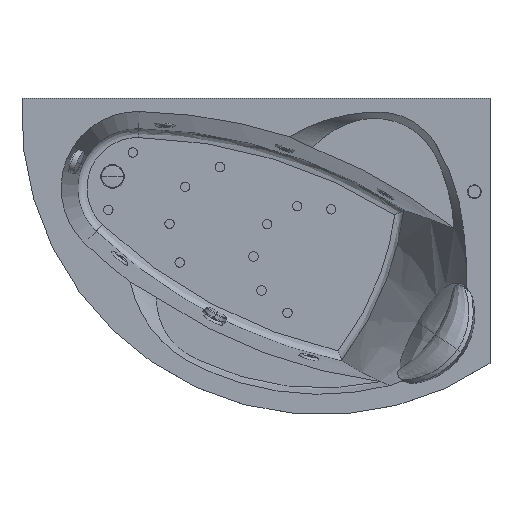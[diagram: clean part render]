
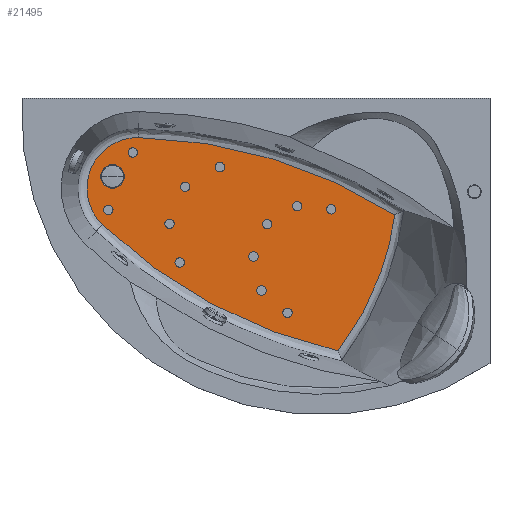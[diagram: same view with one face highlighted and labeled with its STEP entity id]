
A CAD part, top view. The second image highlights one B-rep face of the part: STEP entity #21495.
In plain terms, the highlighted planar face has unit normal (0, 0, 1).
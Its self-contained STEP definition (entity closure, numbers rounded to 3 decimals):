
#20507=CARTESIAN_POINT('',(-304.807,-373.369,-403.));
#20508=VERTEX_POINT('',#20507);
#20522=CARTESIAN_POINT('',(-486.649,-809.507,-403.0));
#20523=VERTEX_POINT('',#20522);
#20524=CARTESIAN_POINT('',(-486.649,-809.507,-403.));
#20525=CARTESIAN_POINT('',(-483.513,-805.493,-403.));
#20526=CARTESIAN_POINT('',(-475.331,-794.842,-403.));
#20527=CARTESIAN_POINT('',(-464.012,-779.323,-403.0));
#20528=CARTESIAN_POINT('',(-450.351,-759.577,-403.0));
#20529=CARTESIAN_POINT('',(-429.434,-727.484,-403.0));
#20530=CARTESIAN_POINT('',(-402.25,-680.187,-403.0));
#20531=CARTESIAN_POINT('',(-376.92,-627.38,-403.0));
#20532=CARTESIAN_POINT('',(-361.224,-589.013,-403.));
#20533=CARTESIAN_POINT('',(-353.14,-567.302,-403.));
#20534=CARTESIAN_POINT('',(-349.42,-556.831,-403.));
#20535=CARTESIAN_POINT('',(-347.071,-550.017,-403.));
#20536=CARTESIAN_POINT('',(-345.273,-544.719,-403.));
#20537=CARTESIAN_POINT('',(-342.938,-537.608,-403.));
#20538=CARTESIAN_POINT('',(-340.007,-528.451,-403.));
#20539=CARTESIAN_POINT('',(-336.133,-515.84,-403.));
#20540=CARTESIAN_POINT('',(-332.414,-503.093,-403.));
#20541=CARTESIAN_POINT('',(-328.596,-489.268,-403.));
#20542=CARTESIAN_POINT('',(-322.455,-465.841,-403.));
#20543=CARTESIAN_POINT('',(-314.416,-430.791,-403.));
#20544=CARTESIAN_POINT('',(-308.221,-396.371,-403.));
#20545=CARTESIAN_POINT('',(-305.353,-377.173,-403.));
#20546=CARTESIAN_POINT('',(-304.807,-373.369,-403.));
#20547=B_SPLINE_CURVE_WITH_KNOTS('',3,(#20524,#20525,#20526,#20527,#20528,#20529,#20530,#20531,#20532,#20533,#20534,#20535,#20536,#20537,#20538,#20539,#20540,#20541,#20542,#20543,#20544,#20545,#20546),.UNSPECIFIED.,.F.,.U.,(4,1,1,1,1,1,1,1,1,1,1,1,1,1,1,1,1,1,1,1,4),(18.05,33.333,58.34,75.668,105.362,173.246,239.205,280.951,297.573,308.705,314.287,319.194,325.49,336.741,348.036,365.07,376.573,391.063,437.723,484.424,495.953),.UNSPECIFIED.);
#20548=EDGE_CURVE('',#20523,#20508,#20547,.T.);
#20688=CARTESIAN_POINT('',(-1241.679,-405.136,-403.));
#20689=VERTEX_POINT('',#20688);
#20690=CARTESIAN_POINT('',(-136.769,750.848,-403.));
#20691=DIRECTION('',(0.,0.,1.0));
#20692=DIRECTION('',(-0.691,-0.723,0.));
#20693=AXIS2_PLACEMENT_3D('',#20690,#20691,#20692);
#20694=CIRCLE('',#20693,1599.102);
#20695=EDGE_CURVE('',#20689,#20523,#20694,.T.);
#20768=CARTESIAN_POINT('',(-1126.06,-125.576,-403.));
#20769=VERTEX_POINT('',#20768);
#20777=CARTESIAN_POINT('',(-1160.429,-1724.308,-403.));
#20778=DIRECTION('',(0.,0.,1.));
#20779=DIRECTION('',(0.021,1.,0.));
#20780=AXIS2_PLACEMENT_3D('',#20777,#20778,#20779);
#20781=CIRCLE('',#20780,1599.102);
#20782=EDGE_CURVE('',#20508,#20769,#20781,.T.);
#21097=CARTESIAN_POINT('',(-1129.548,-287.822,-403.));
#21098=DIRECTION('',(0.,0.,1.0));
#21099=DIRECTION('',(0.021,1.,0.));
#21100=AXIS2_PLACEMENT_3D('',#21097,#21098,#21099);
#21101=CIRCLE('',#21100,162.283);
#21102=EDGE_CURVE('',#20769,#20689,#21101,.T.);
#21422=CARTESIAN_POINT('',(-1248.191,-250.,-403.));
#21423=VERTEX_POINT('',#21422);
#21430=CARTESIAN_POINT('',(-1171.809,-250.,-403.));
#21431=VERTEX_POINT('',#21430);
#21432=CARTESIAN_POINT('',(-1210.0,-250.,-403.));
#21433=DIRECTION('',(0.,0.,1.0));
#21434=DIRECTION('',(-1.0,0.,0.0));
#21435=AXIS2_PLACEMENT_3D('',#21432,#21433,#21434);
#21436=CIRCLE('',#21435,38.191);
#21437=EDGE_CURVE('',#21423,#21431,#21436,.T.);
#21469=CARTESIAN_POINT('',(-1210.0,-250.,-403.));
#21470=DIRECTION('',(0.,0.,1.0));
#21471=DIRECTION('',(-1.0,0.,0.0));
#21472=AXIS2_PLACEMENT_3D('',#21469,#21470,#21471);
#21473=CIRCLE('',#21472,38.191);
#21474=EDGE_CURVE('',#21431,#21423,#21473,.T.);
#21480=CARTESIAN_POINT('',(-571.756,-955.796,-403.0));
#21481=DIRECTION('',(0.0,0.0,1.0));
#21482=DIRECTION('',(0.601,0.799,0.0));
#21483=AXIS2_PLACEMENT_3D('',#21480,#21481,#21482);
#21484=PLANE('',#21483);
#21485=ORIENTED_EDGE('',*,*,#21102,.T.);
#21486=ORIENTED_EDGE('',*,*,#20695,.T.);
#21487=ORIENTED_EDGE('',*,*,#20548,.T.);
#21488=ORIENTED_EDGE('',*,*,#20782,.T.);
#21489=EDGE_LOOP('',(#21485,#21486,#21487,#21488));
#21490=FACE_OUTER_BOUND('',#21489,.T.);
#21491=ORIENTED_EDGE('',*,*,#21474,.F.);
#21492=ORIENTED_EDGE('',*,*,#21437,.F.);
#21493=EDGE_LOOP('',(#21491,#21492));
#21494=FACE_BOUND('',#21493,.T.);
#21495=ADVANCED_FACE('',(#21490,#21494),#21484,.T.);
